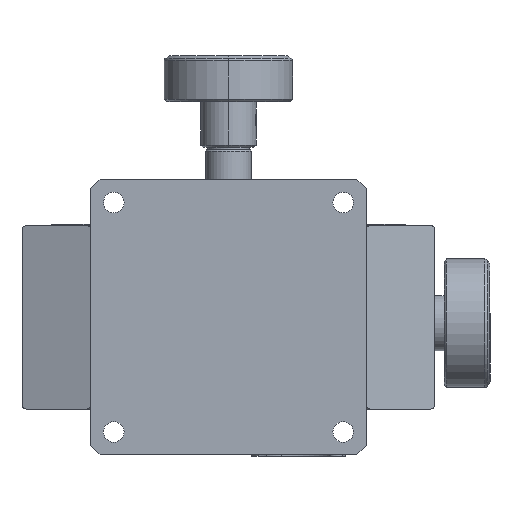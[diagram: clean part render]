
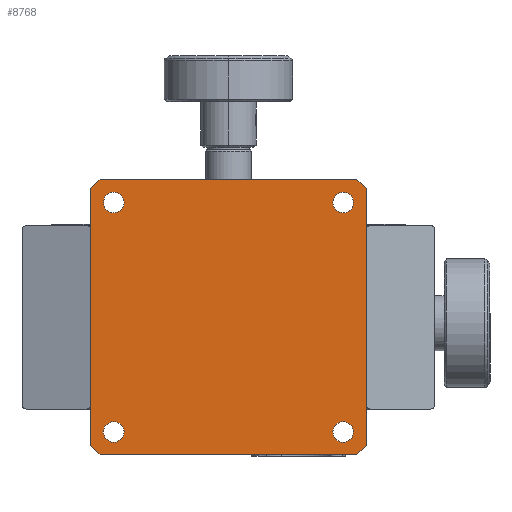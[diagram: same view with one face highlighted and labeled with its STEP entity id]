
A CAD part, front view. The second image highlights one B-rep face of the part: STEP entity #8768.
In plain terms, the highlighted planar face has unit normal (0, -1, 0).
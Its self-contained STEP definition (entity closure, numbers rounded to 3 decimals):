
#791 = DIRECTION ( 'NONE',  ( -0.707, 0., -0.707 ) ) ;
#2458 = FACE_BOUND ( 'NONE', #99912, .T. ) ;
#2626 = CARTESIAN_POINT ( 'NONE',  ( -27.25, 0., -25. ) ) ;
#3231 = CARTESIAN_POINT ( 'NONE',  ( 28., 0., 30. ) ) ;
#3241 = VERTEX_POINT ( 'NONE', #4626 ) ;
#3619 = CARTESIAN_POINT ( 'NONE',  ( -27.25, 0., 25. ) ) ;
#3727 = EDGE_LOOP ( 'NONE', ( #26480, #12371 ) ) ;
#4169 = DIRECTION ( 'NONE',  ( 0., 1., 0. ) ) ;
#4626 = CARTESIAN_POINT ( 'NONE',  ( -30., 0., 28. ) ) ;
#4922 = EDGE_CURVE ( 'NONE', #25808, #18183, #5471, .T. ) ;
#5471 = CIRCLE ( 'NONE', #78774, 2.25 ) ;
#6579 = DIRECTION ( 'NONE',  ( 0., 1., 0. ) ) ;
#6876 = VERTEX_POINT ( 'NONE', #92941 ) ;
#7169 = AXIS2_PLACEMENT_3D ( 'NONE', #88418, #41331, #96322 ) ;
#8768 = ADVANCED_FACE ( 'NONE', ( #65077, #62632, #2458, #83631, #23376 ), #21456, .T. ) ;
#9166 = CIRCLE ( 'NONE', #7169, 2.25 ) ;
#9174 = VERTEX_POINT ( 'NONE', #83207 ) ;
#9630 = CARTESIAN_POINT ( 'NONE',  ( -25., 0., -25. ) ) ;
#9655 = CARTESIAN_POINT ( 'NONE',  ( -28., 0., 30. ) ) ;
#9968 = VECTOR ( 'NONE', #13246, 1000. ) ;
#11132 = ORIENTED_EDGE ( 'NONE', *, *, #63261, .T. ) ;
#12318 = CARTESIAN_POINT ( 'NONE',  ( -22.75, 0., 25. ) ) ;
#12371 = ORIENTED_EDGE ( 'NONE', *, *, #22450, .T. ) ;
#12775 = EDGE_LOOP ( 'NONE', ( #51142, #68368 ) ) ;
#13246 = DIRECTION ( 'NONE',  ( 0., 0., 1. ) ) ;
#13538 = CARTESIAN_POINT ( 'NONE',  ( 27.25, 0., 25. ) ) ;
#13834 = VECTOR ( 'NONE', #46970, 1000. ) ;
#14110 = VECTOR ( 'NONE', #54460, 1000. ) ;
#14970 = CIRCLE ( 'NONE', #87893, 2.25 ) ;
#15198 = EDGE_CURVE ( 'NONE', #99253, #100219, #78268, .T. ) ;
#16628 = VERTEX_POINT ( 'NONE', #9655 ) ;
#16673 = DIRECTION ( 'NONE',  ( -1., 0., 0. ) ) ;
#17253 = LINE ( 'NONE', #37487, #77523 ) ;
#17553 = DIRECTION ( 'NONE',  ( 1., 0., 0. ) ) ;
#18183 = VERTEX_POINT ( 'NONE', #3619 ) ;
#18853 = CARTESIAN_POINT ( 'NONE',  ( -25., 0., -25. ) ) ;
#19765 = DIRECTION ( 'NONE',  ( -0.707, 0., 0.707 ) ) ;
#20928 = EDGE_CURVE ( 'NONE', #18183, #25808, #100427, .T. ) ;
#21456 = PLANE ( 'NONE',  #32825 ) ;
#22450 = EDGE_CURVE ( 'NONE', #9174, #32135, #63397, .T. ) ;
#22572 = LINE ( 'NONE', #24249, #77879 ) ;
#23376 = FACE_OUTER_BOUND ( 'NONE', #70698, .T. ) ;
#23881 = LINE ( 'NONE', #100532, #86590 ) ;
#24060 = EDGE_CURVE ( 'NONE', #32135, #9174, #89000, .T. ) ;
#24249 = CARTESIAN_POINT ( 'NONE',  ( 30., 0., -30. ) ) ;
#24863 = CARTESIAN_POINT ( 'NONE',  ( 27.25, 0., -25. ) ) ;
#24892 = CARTESIAN_POINT ( 'NONE',  ( -30., 0., -28. ) ) ;
#25808 = VERTEX_POINT ( 'NONE', #12318 ) ;
#26480 = ORIENTED_EDGE ( 'NONE', *, *, #24060, .T. ) ;
#26729 = DIRECTION ( 'NONE',  ( 1., 0., 0. ) ) ;
#28908 = EDGE_CURVE ( 'NONE', #78277, #29100, #61178, .T. ) ;
#29100 = VERTEX_POINT ( 'NONE', #73719 ) ;
#29849 = VECTOR ( 'NONE', #791, 1000. ) ;
#30593 = ORIENTED_EDGE ( 'NONE', *, *, #15198, .T. ) ;
#31201 = ORIENTED_EDGE ( 'NONE', *, *, #53712, .F. ) ;
#32135 = VERTEX_POINT ( 'NONE', #24863 ) ;
#32825 = AXIS2_PLACEMENT_3D ( 'NONE', #52664, #99786, #37218 ) ;
#33583 = AXIS2_PLACEMENT_3D ( 'NONE', #53639, #6579, #61543 ) ;
#35635 = CARTESIAN_POINT ( 'NONE',  ( -25., 0., 25. ) ) ;
#36312 = LINE ( 'NONE', #66756, #78176 ) ;
#37218 = DIRECTION ( 'NONE',  ( -1., 0., 0. ) ) ;
#37487 = CARTESIAN_POINT ( 'NONE',  ( 30., 0., 30. ) ) ;
#39239 = CARTESIAN_POINT ( 'NONE',  ( 30., 0., -28. ) ) ;
#41331 = DIRECTION ( 'NONE',  ( 0., 1., 0. ) ) ;
#41993 = VERTEX_POINT ( 'NONE', #13538 ) ;
#43051 = EDGE_CURVE ( 'NONE', #52447, #29100, #22572, .T. ) ;
#43447 = EDGE_CURVE ( 'NONE', #16628, #3241, #92576, .T. ) ;
#43540 = DIRECTION ( 'NONE',  ( 1., 0., 0. ) ) ;
#43680 = ORIENTED_EDGE ( 'NONE', *, *, #92148, .T. ) ;
#43825 = DIRECTION ( 'NONE',  ( 0., 1., 0. ) ) ;
#44362 = EDGE_CURVE ( 'NONE', #6876, #41993, #14970, .T. ) ;
#45445 = CARTESIAN_POINT ( 'NONE',  ( 25., 0., -25. ) ) ;
#46970 = DIRECTION ( 'NONE',  ( 1., 0., 0. ) ) ;
#48177 = CARTESIAN_POINT ( 'NONE',  ( 28., 0., -30. ) ) ;
#48201 = CARTESIAN_POINT ( 'NONE',  ( 30., 0., 28. ) ) ;
#51142 = ORIENTED_EDGE ( 'NONE', *, *, #4922, .T. ) ;
#51205 = CARTESIAN_POINT ( 'NONE',  ( -25., 0., 25. ) ) ;
#52447 = VERTEX_POINT ( 'NONE', #48177 ) ;
#52664 = CARTESIAN_POINT ( 'NONE',  ( -30., 0., 30. ) ) ;
#53325 = DIRECTION ( 'NONE',  ( 1., 0., 0. ) ) ;
#53639 = CARTESIAN_POINT ( 'NONE',  ( 25., 0., -25. ) ) ;
#53712 = EDGE_CURVE ( 'NONE', #78277, #3241, #54248, .T. ) ;
#54248 = LINE ( 'NONE', #98493, #9968 ) ;
#54460 = DIRECTION ( 'NONE',  ( 0.707, 0., -0.707 ) ) ;
#57148 = EDGE_CURVE ( 'NONE', #52447, #64081, #23881, .T. ) ;
#59110 = DIRECTION ( 'NONE',  ( 1., 0., 0. ) ) ;
#59732 = AXIS2_PLACEMENT_3D ( 'NONE', #35635, #90671, #43540 ) ;
#61178 = LINE ( 'NONE', #61678, #14110 ) ;
#61543 = DIRECTION ( 'NONE',  ( 1., 0., 0. ) ) ;
#61678 = CARTESIAN_POINT ( 'NONE',  ( -59., 0., 1. ) ) ;
#62632 = FACE_BOUND ( 'NONE', #12775, .T. ) ;
#63261 = EDGE_CURVE ( 'NONE', #100219, #99253, #84469, .T. ) ;
#63397 = CIRCLE ( 'NONE', #96093, 2.25 ) ;
#64081 = VERTEX_POINT ( 'NONE', #39239 ) ;
#64555 = DIRECTION ( 'NONE',  ( 0., 1., 0. ) ) ;
#64734 = EDGE_LOOP ( 'NONE', ( #79236, #97526 ) ) ;
#65077 = FACE_BOUND ( 'NONE', #64734, .T. ) ;
#65794 = ORIENTED_EDGE ( 'NONE', *, *, #85360, .F. ) ;
#66699 = CARTESIAN_POINT ( 'NONE',  ( -22.75, 0., -25. ) ) ;
#66756 = CARTESIAN_POINT ( 'NONE',  ( -1., 0., 59. ) ) ;
#68368 = ORIENTED_EDGE ( 'NONE', *, *, #20928, .T. ) ;
#69080 = ORIENTED_EDGE ( 'NONE', *, *, #72695, .F. ) ;
#69227 = ORIENTED_EDGE ( 'NONE', *, *, #57148, .T. ) ;
#70362 = CARTESIAN_POINT ( 'NONE',  ( 30., 0., 30. ) ) ;
#70698 = EDGE_LOOP ( 'NONE', ( #65794, #91179, #31201, #77219, #75399, #69227, #69080, #43680 ) ) ;
#71381 = AXIS2_PLACEMENT_3D ( 'NONE', #9630, #64555, #17553 ) ;
#72695 = EDGE_CURVE ( 'NONE', #79886, #64081, #17253, .T. ) ;
#73719 = CARTESIAN_POINT ( 'NONE',  ( -28., 0., -30. ) ) ;
#73814 = DIRECTION ( 'NONE',  ( 0., 1., 0. ) ) ;
#75399 = ORIENTED_EDGE ( 'NONE', *, *, #43051, .F. ) ;
#76021 = VERTEX_POINT ( 'NONE', #3231 ) ;
#76317 = AXIS2_PLACEMENT_3D ( 'NONE', #18853, #73814, #26729 ) ;
#76495 = DIRECTION ( 'NONE',  ( 0.707, 0., 0.707 ) ) ;
#76572 = LINE ( 'NONE', #70362, #13834 ) ;
#77219 = ORIENTED_EDGE ( 'NONE', *, *, #28908, .T. ) ;
#77523 = VECTOR ( 'NONE', #84635, 1000. ) ;
#77879 = VECTOR ( 'NONE', #16673, 1000. ) ;
#78176 = VECTOR ( 'NONE', #19765, 1000. ) ;
#78268 = CIRCLE ( 'NONE', #71381, 2.25 ) ;
#78277 = VERTEX_POINT ( 'NONE', #24892 ) ;
#78774 = AXIS2_PLACEMENT_3D ( 'NONE', #51205, #4169, #59110 ) ;
#79236 = ORIENTED_EDGE ( 'NONE', *, *, #98134, .T. ) ;
#79886 = VERTEX_POINT ( 'NONE', #48201 ) ;
#83207 = CARTESIAN_POINT ( 'NONE',  ( 22.75, 0., -25. ) ) ;
#83631 = FACE_BOUND ( 'NONE', #3727, .T. ) ;
#84469 = CIRCLE ( 'NONE', #76317, 2.25 ) ;
#84635 = DIRECTION ( 'NONE',  ( 0., 0., -1. ) ) ;
#85360 = EDGE_CURVE ( 'NONE', #16628, #76021, #76572, .T. ) ;
#86590 = VECTOR ( 'NONE', #76495, 1000. ) ;
#87060 = CARTESIAN_POINT ( 'NONE',  ( -29., 0., 29. ) ) ;
#87893 = AXIS2_PLACEMENT_3D ( 'NONE', #90953, #43825, #100209 ) ;
#88418 = CARTESIAN_POINT ( 'NONE',  ( 25., 0., 25. ) ) ;
#89000 = CIRCLE ( 'NONE', #33583, 2.25 ) ;
#90671 = DIRECTION ( 'NONE',  ( 0., 1., 0. ) ) ;
#90953 = CARTESIAN_POINT ( 'NONE',  ( 25., 0., 25. ) ) ;
#91179 = ORIENTED_EDGE ( 'NONE', *, *, #43447, .T. ) ;
#92148 = EDGE_CURVE ( 'NONE', #79886, #76021, #36312, .T. ) ;
#92576 = LINE ( 'NONE', #87060, #29849 ) ;
#92941 = CARTESIAN_POINT ( 'NONE',  ( 22.75, 0., 25. ) ) ;
#96093 = AXIS2_PLACEMENT_3D ( 'NONE', #45445, #100438, #53325 ) ;
#96322 = DIRECTION ( 'NONE',  ( 1., 0., 0. ) ) ;
#97526 = ORIENTED_EDGE ( 'NONE', *, *, #44362, .T. ) ;
#98134 = EDGE_CURVE ( 'NONE', #41993, #6876, #9166, .T. ) ;
#98493 = CARTESIAN_POINT ( 'NONE',  ( -30., 0., 30. ) ) ;
#99253 = VERTEX_POINT ( 'NONE', #66699 ) ;
#99786 = DIRECTION ( 'NONE',  ( 0., -1., 0. ) ) ;
#99912 = EDGE_LOOP ( 'NONE', ( #30593, #11132 ) ) ;
#100209 = DIRECTION ( 'NONE',  ( 1., 0., 0. ) ) ;
#100219 = VERTEX_POINT ( 'NONE', #2626 ) ;
#100427 = CIRCLE ( 'NONE', #59732, 2.25 ) ;
#100438 = DIRECTION ( 'NONE',  ( 0., 1., 0. ) ) ;
#100532 = CARTESIAN_POINT ( 'NONE',  ( 29., 0., -29. ) ) ;
